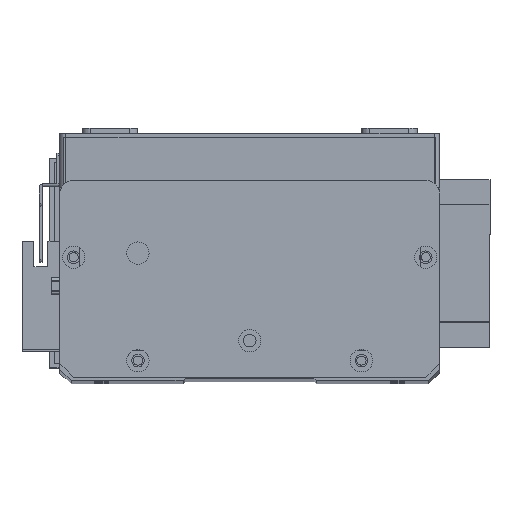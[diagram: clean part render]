
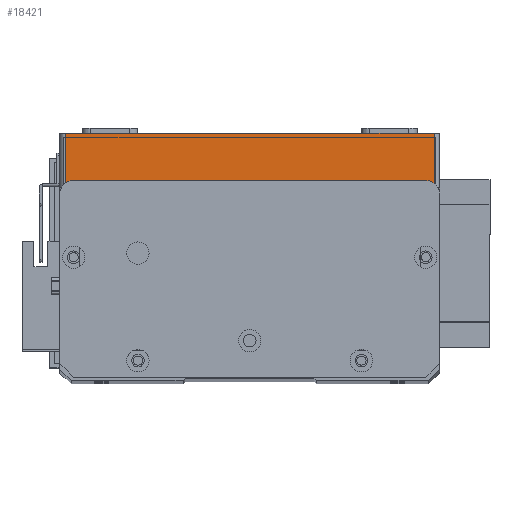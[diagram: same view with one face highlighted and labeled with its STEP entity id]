
A CAD part, top view. The second image highlights one B-rep face of the part: STEP entity #18421.
In plain terms, the highlighted planar face has unit normal (0, 0, 1) as drawn and (0, -1, 0) by its records, which use the part's own axes.
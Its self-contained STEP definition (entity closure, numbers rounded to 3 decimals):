
#482 = VECTOR ( 'NONE', #13664, 1000. ) ;
#1180 = EDGE_CURVE ( 'NONE', #21486, #24304, #2310, .T. ) ;
#2073 = LINE ( 'NONE', #14564, #19107 ) ;
#2310 = LINE ( 'NONE', #21416, #25227 ) ;
#4084 = CARTESIAN_POINT ( 'NONE',  ( 134., 0., 19.5 ) ) ;
#5466 = CARTESIAN_POINT ( 'NONE',  ( 2., 0., 19.5 ) ) ;
#6843 = EDGE_LOOP ( 'NONE', ( #11846, #6890, #11925, #11116 ) ) ;
#6890 = ORIENTED_EDGE ( 'NONE', *, *, #11992, .T. ) ;
#9580 = VECTOR ( 'NONE', #18794, 1000. ) ;
#10400 = CARTESIAN_POINT ( 'NONE',  ( 2., 0., 0. ) ) ;
#11116 = ORIENTED_EDGE ( 'NONE', *, *, #26702, .T. ) ;
#11846 = ORIENTED_EDGE ( 'NONE', *, *, #13833, .F. ) ;
#11925 = ORIENTED_EDGE ( 'NONE', *, *, #1180, .T. ) ;
#11992 = EDGE_CURVE ( 'NONE', #23212, #21486, #16195, .T. ) ;
#13205 = DIRECTION ( 'NONE',  ( 0., 1., 0. ) ) ;
#13664 = DIRECTION ( 'NONE',  ( 0., 0., 1. ) ) ;
#13833 = EDGE_CURVE ( 'NONE', #23212, #21605, #2073, .T. ) ;
#14564 = CARTESIAN_POINT ( 'NONE',  ( 0., 0., 19.5 ) ) ;
#15815 = CARTESIAN_POINT ( 'NONE',  ( 2., 0., 19.5 ) ) ;
#16195 = LINE ( 'NONE', #5466, #9580 ) ;
#18421 = ADVANCED_FACE ( 'NONE', ( #19223 ), #26505, .F. ) ;
#18794 = DIRECTION ( 'NONE',  ( 0., 0., -1. ) ) ;
#19107 = VECTOR ( 'NONE', #21284, 1000. ) ;
#19181 = DIRECTION ( 'NONE',  ( 1., 0., 0. ) ) ;
#19223 = FACE_OUTER_BOUND ( 'NONE', #6843, .T. ) ;
#21284 = DIRECTION ( 'NONE',  ( 1., 0., 0. ) ) ;
#21416 = CARTESIAN_POINT ( 'NONE',  ( 0., 0., 0. ) ) ;
#21486 = VERTEX_POINT ( 'NONE', #10400 ) ;
#21605 = VERTEX_POINT ( 'NONE', #4084 ) ;
#23212 = VERTEX_POINT ( 'NONE', #15815 ) ;
#24259 = CARTESIAN_POINT ( 'NONE',  ( 0., 0., 19.5 ) ) ;
#24304 = VERTEX_POINT ( 'NONE', #28565 ) ;
#24708 = CARTESIAN_POINT ( 'NONE',  ( 134., 0., 19.5 ) ) ;
#24797 = LINE ( 'NONE', #24708, #482 ) ;
#25227 = VECTOR ( 'NONE', #19181, 1000. ) ;
#26505 = PLANE ( 'NONE',  #27920 ) ;
#26702 = EDGE_CURVE ( 'NONE', #24304, #21605, #24797, .T. ) ;
#27920 = AXIS2_PLACEMENT_3D ( 'NONE', #24259, #13205, #28727 ) ;
#28565 = CARTESIAN_POINT ( 'NONE',  ( 134., 0., 0. ) ) ;
#28727 = DIRECTION ( 'NONE',  ( 0., 0., 1. ) ) ;
